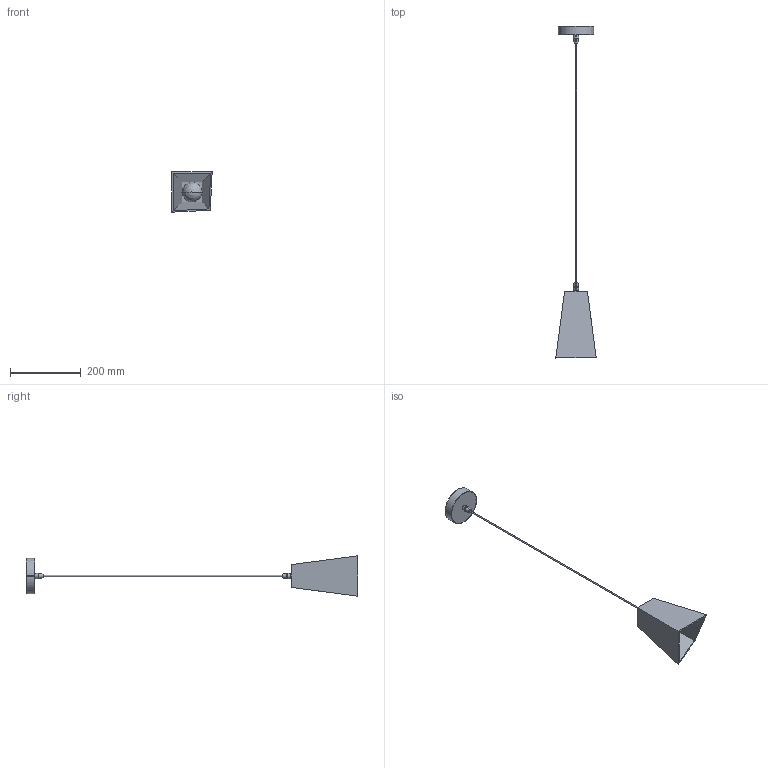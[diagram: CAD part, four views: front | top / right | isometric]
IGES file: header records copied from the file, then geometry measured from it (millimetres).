
Start section: SolidWorks IGES file using analytic representation for surfaces
Global section: file name: F:\燠隴矨\3D\2024-1堎\Georgia Cement Pendant Light-D15XH19CM.IGS; native system: SolidWorks 2022; preprocessor: SolidWorks 2022; author: MyPC; date: 240120.155429; units: millimetre
Bounding box: 114.18 x 938.54 x 114.18 mm (x, y, z)
Surface area: 196172.2 mm2 (no closed solid volume)
Topology: 0 solids, 0 shells, 76 faces, 1128 edges, 1127 vertices
Faces by surface type: bspline 44, revolution 32
